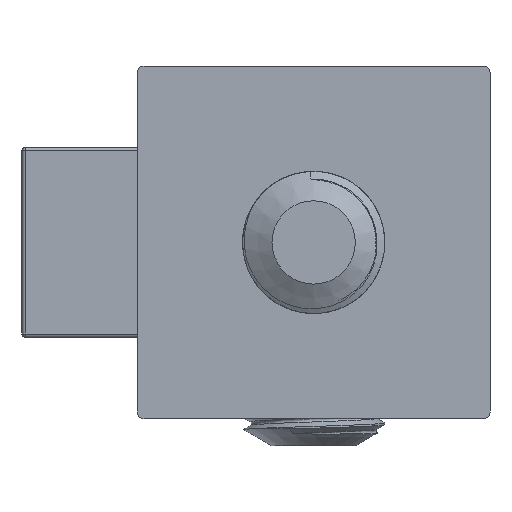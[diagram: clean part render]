
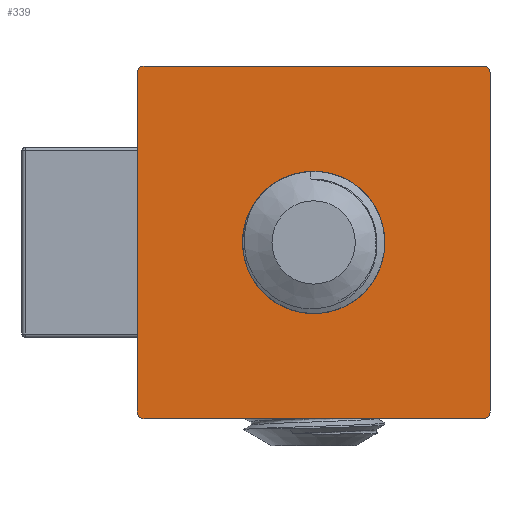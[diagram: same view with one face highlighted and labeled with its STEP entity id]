
A CAD part, left-side view. The second image highlights one B-rep face of the part: STEP entity #339.
In plain terms, the highlighted planar face has unit normal (-1, 0, 0).
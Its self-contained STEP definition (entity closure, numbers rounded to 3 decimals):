
#339=ADVANCED_FACE('',(#2866,#2868),#2870,.F.);
#2866=FACE_BOUND('',#2867,.T.);
#2867=EDGE_LOOP('',(#15131,#15132,#15133,#15134,#15135,#15136,#15137,#15138));
#2868=FACE_BOUND('',#2869,.T.);
#2869=EDGE_LOOP('',(#15139,#15140));
#2870=PLANE('',#2871);
#2871=AXIS2_PLACEMENT_3D('',#2872,#2873,#2874);
#2872=CARTESIAN_POINT('',(0.,0.,0.));
#2873=DIRECTION('',(1.,0.,0.));
#2874=DIRECTION('',(0.,1.,0.));
#15131=ORIENTED_EDGE('',*,*,#15624,.F.);
#15132=ORIENTED_EDGE('',*,*,#15614,.F.);
#15133=ORIENTED_EDGE('',*,*,#15625,.F.);
#15134=ORIENTED_EDGE('',*,*,#15610,.F.);
#15135=ORIENTED_EDGE('',*,*,#15626,.F.);
#15136=ORIENTED_EDGE('',*,*,#15606,.F.);
#15137=ORIENTED_EDGE('',*,*,#15627,.F.);
#15138=ORIENTED_EDGE('',*,*,#15618,.F.);
#15139=ORIENTED_EDGE('',*,*,#15628,.F.);
#15140=ORIENTED_EDGE('',*,*,#15629,.F.);
#15606=EDGE_CURVE('',#15919,#15921,#15922,.T.);
#15610=EDGE_CURVE('',#15927,#15929,#15930,.T.);
#15614=EDGE_CURVE('',#15935,#15937,#15938,.T.);
#15618=EDGE_CURVE('',#15943,#15945,#15946,.T.);
#15624=EDGE_CURVE('',#15937,#15943,#15956,.F.);
#15625=EDGE_CURVE('',#15929,#15935,#15957,.F.);
#15626=EDGE_CURVE('',#15921,#15927,#15958,.F.);
#15627=EDGE_CURVE('',#15945,#15919,#15959,.F.);
#15628=EDGE_CURVE('',#15960,#15961,#15962,.T.);
#15629=EDGE_CURVE('',#15961,#15960,#15963,.T.);
#15919=VERTEX_POINT('',#17031);
#15921=VERTEX_POINT('',#17035);
#15922=LINE('',#17036,#17037);
#15927=VERTEX_POINT('',#17047);
#15929=VERTEX_POINT('',#17051);
#15930=LINE('',#17052,#17053);
#15935=VERTEX_POINT('',#17063);
#15937=VERTEX_POINT('',#17067);
#15938=LINE('',#17068,#17069);
#15943=VERTEX_POINT('',#17079);
#15945=VERTEX_POINT('',#17083);
#15946=LINE('',#17084,#17085);
#15956=CIRCLE('',#17106,1.);
#15957=CIRCLE('',#17110,1.);
#15958=CIRCLE('',#17114,1.);
#15959=CIRCLE('',#17118,1.);
#15960=VERTEX_POINT('',#17122);
#15961=VERTEX_POINT('',#17123);
#15962=CIRCLE('',#17124,10.478);
#15963=CIRCLE('',#17128,10.478);
#17031=CARTESIAN_POINT('',(0.,-26.,25.));
#17035=CARTESIAN_POINT('',(0.,-26.,-25.));
#17036=CARTESIAN_POINT('',(0.,-26.,25.));
#17037=VECTOR('',#17038,1.);
#17038=DIRECTION('',(0.,0.,-1.));
#17047=CARTESIAN_POINT('',(0.,-25.,-26.));
#17051=CARTESIAN_POINT('',(0.,25.,-26.));
#17052=CARTESIAN_POINT('',(0.,-25.,-26.));
#17053=VECTOR('',#17054,1.);
#17054=DIRECTION('',(0.,1.,0.));
#17063=CARTESIAN_POINT('',(0.,26.,-25.));
#17067=CARTESIAN_POINT('',(0.,26.,25.));
#17068=CARTESIAN_POINT('',(0.,26.,-25.));
#17069=VECTOR('',#17070,1.);
#17070=DIRECTION('',(0.,0.,1.));
#17079=CARTESIAN_POINT('',(0.,25.,26.));
#17083=CARTESIAN_POINT('',(0.,-25.,26.));
#17084=CARTESIAN_POINT('',(0.,25.,26.));
#17085=VECTOR('',#17086,1.);
#17086=DIRECTION('',(0.,-1.,0.));
#17106=AXIS2_PLACEMENT_3D('',#17107,#17108,#17109);
#17107=CARTESIAN_POINT('',(0.,25.,25.));
#17108=DIRECTION('',(-1.,0.,0.));
#17109=DIRECTION('',(0.,0.,1.));
#17110=AXIS2_PLACEMENT_3D('',#17111,#17112,#17113);
#17111=CARTESIAN_POINT('',(0.,25.,-25.));
#17112=DIRECTION('',(-1.,0.,0.));
#17113=DIRECTION('',(0.,1.,0.));
#17114=AXIS2_PLACEMENT_3D('',#17115,#17116,#17117);
#17115=CARTESIAN_POINT('',(0.,-25.,-25.));
#17116=DIRECTION('',(-1.,0.,0.));
#17117=DIRECTION('',(0.,0.,-1.));
#17118=AXIS2_PLACEMENT_3D('',#17119,#17120,#17121);
#17119=CARTESIAN_POINT('',(0.,-25.,25.));
#17120=DIRECTION('',(-1.,0.,0.));
#17121=DIRECTION('',(0.,-1.,0.));
#17122=CARTESIAN_POINT('',(0.,2.99,-10.042));
#17123=CARTESIAN_POINT('',(0.,0.,-10.478));
#17124=AXIS2_PLACEMENT_3D('',#17125,#17126,#17127);
#17125=CARTESIAN_POINT('',(0.,0.,0.));
#17126=DIRECTION('',(-1.,0.,0.));
#17127=DIRECTION('',(0.,0.285,-0.958));
#17128=AXIS2_PLACEMENT_3D('',#17129,#17130,#17131);
#17129=CARTESIAN_POINT('',(0.,0.,0.));
#17130=DIRECTION('',(-1.,0.,0.));
#17131=DIRECTION('',(0.,0.,-1.));
